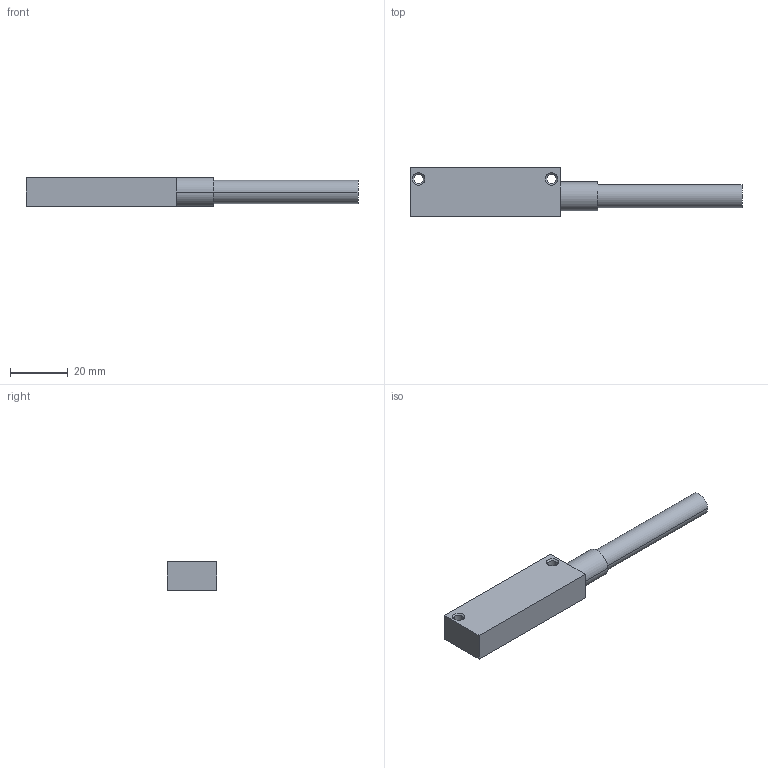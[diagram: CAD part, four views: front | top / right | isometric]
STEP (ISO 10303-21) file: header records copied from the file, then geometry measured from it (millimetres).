
FILE_DESCRIPTION (( 'STEP AP203' ), '1' );
FILE_NAME ('TMLS-05A.STEP', '2011-07-18T08:07:08', ( 'Uživatel' ), ( '' ), 'SwSTEP 2.0', 'SolidWorks 2010', '' );
FILE_SCHEMA (( 'CONFIG_CONTROL_DESIGN' ));
Length unit declared in the file: millimetre
Products named in the file (1): TMLS-05A
Bounding box: 115 x 17 x 10 mm (x, y, z)
Volume: 11949 mm3; surface area: 5125.8 mm2
Topology: 1 solids, 1 shells, 48 faces, 112 edges, 66 vertices
Faces by surface type: cylinder 22, plane 14, cone 12
Entity records: 1443 total; most frequent: CARTESIAN_POINT 275, DIRECTION 236, ORIENTED_EDGE 224, EDGE_CURVE 112, AXIS2_PLACEMENT_3D 91, VERTEX_POINT 66, EDGE_LOOP 56, LINE 54
